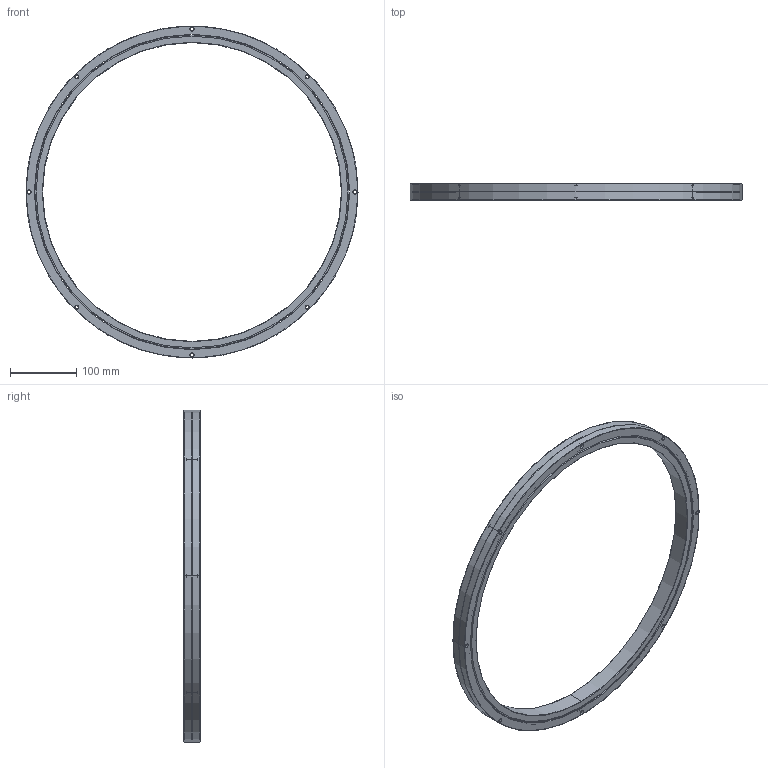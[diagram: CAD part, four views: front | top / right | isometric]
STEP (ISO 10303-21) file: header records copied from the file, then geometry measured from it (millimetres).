
FILE_DESCRIPTION((''),'2;1');
FILE_NAME('RB45025','2015-08-27T',('Administrator'),(''),'PRO/ENGINEER BY PARAMETRIC TECHNOLOGY CORPORATION, 2010180','PRO/ENGINEER BY PARAMETRIC TECHNOLOGY CORPORATION, 2010180','');
FILE_SCHEMA(('AUTOMOTIVE_DESIGN_CC2 { 1 2 10303 214 -1 1 5 2 }'));
Length unit declared in the file: millimetre
Products named in the file (1): RB45025
Bounding box: 500 x 25 x 500 mm (x, y, z)
Volume: 783550.4 mm3; surface area: 254196 mm2
Topology: 2 solids, 2 shells, 120 faces, 256 edges, 162 vertices
Faces by surface type: cylinder 74, plane 26, cone 12, torus 8
Entity records: 3433 total; most frequent: DIRECTION 666, CARTESIAN_POINT 538, ORIENTED_EDGE 512, AXIS2_PLACEMENT_3D 290, EDGE_CURVE 256, CIRCLE 170, VERTEX_POINT 162, EDGE_LOOP 162
